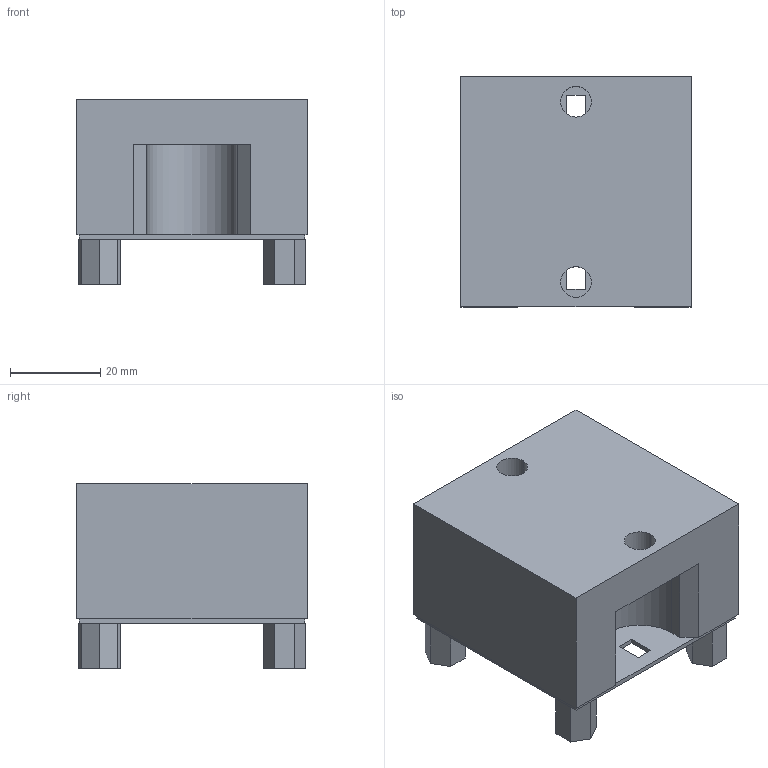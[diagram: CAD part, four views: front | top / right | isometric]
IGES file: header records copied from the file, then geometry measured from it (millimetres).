
Start section: 3D InterOp IGES (v. 2020 1.0.1), Spatial Corp. Copyright (c) 1999-2017.
Global section: file name: HER1652_40.igs; native system: Spatial Corp.; preprocessor: 3D InterOp GENERIC/IGES 3.0; author: Noname; organization: Noname; date: 20201116.103435; units: metre
Bounding box: 51 x 51 x 41 mm (x, y, z)
Surface area: 15957.4 mm2 (no closed solid volume)
Topology: 0 solids, 0 shells, 98 faces, 508 edges, 504 vertices
Faces by surface type: extrusion 76, revolution 22
